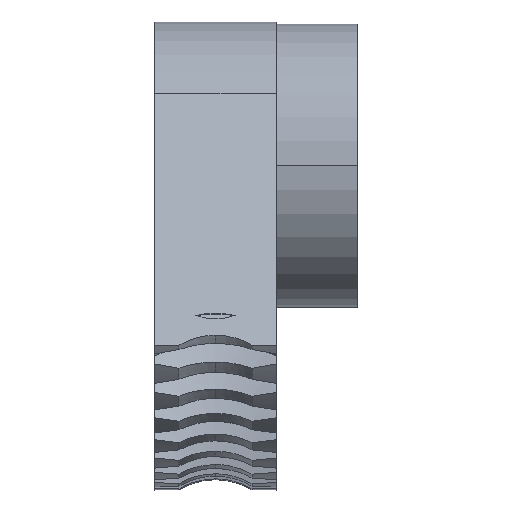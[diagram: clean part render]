
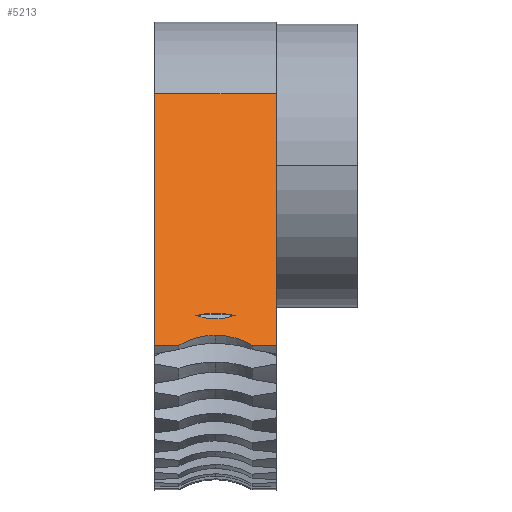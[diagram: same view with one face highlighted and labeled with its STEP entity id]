
A CAD part, top view. The second image highlights one B-rep face of the part: STEP entity #5213.
In plain terms, the highlighted planar face has unit normal (0, 0.5, 0.866).
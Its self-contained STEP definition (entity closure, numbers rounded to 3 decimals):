
#10 = VERTEX_POINT ( 'NONE', #908 ) ;
#47 = FACE_OUTER_BOUND ( 'NONE', #953, .T. ) ;
#121 = ORIENTED_EDGE ( 'NONE', *, *, #4924, .F. ) ;
#364 = CARTESIAN_POINT ( 'NONE',  ( 0., -8.867, 13.318 ) ) ;
#477 = CARTESIAN_POINT ( 'NONE',  ( 3.333, -7.562, 12.564 ) ) ;
#508 = CARTESIAN_POINT ( 'NONE',  ( 2.032, -7.403, 12.473 ) ) ;
#536 = DIRECTION ( 'NONE',  ( 1., 0., 0. ) ) ;
#538 = CARTESIAN_POINT ( 'NONE',  ( 3.968, -7.403, 12.473 ) ) ;
#567 =( BOUNDED_CURVE ( )  B_SPLINE_CURVE ( 3, ( #508, #6385, #4907, #4416 ),
 .UNSPECIFIED., .F., .F. ) 
 B_SPLINE_CURVE_WITH_KNOTS ( ( 4, 4 ),
 ( 2.929, 3.142 ),
 .UNSPECIFIED. ) 
 CURVE ( )  GEOMETRIC_REPRESENTATION_ITEM ( )  RATIONAL_B_SPLINE_CURVE ( ( 1., 0.996, 0.996, 1. ) ) 
 REPRESENTATION_ITEM ( '' )  );
#589 = CARTESIAN_POINT ( 'NONE',  ( 2.032, -7.403, 12.473 ) ) ;
#613 = CARTESIAN_POINT ( 'NONE',  ( 2.032, -7.403, 12.473 ) ) ;
#641 = EDGE_CURVE ( 'NONE', #10, #3674, #2515, .T. ) ;
#664 = CARTESIAN_POINT ( 'NONE',  ( -2.5, 3.55, 6.149 ) ) ;
#822 = EDGE_CURVE ( 'NONE', #2304, #3827, #962, .T. ) ;
#843 = CARTESIAN_POINT ( 'NONE',  ( 0., 3.55, 6.149 ) ) ;
#908 = CARTESIAN_POINT ( 'NONE',  ( 3., -7.3, 12.413 ) ) ;
#953 = EDGE_LOOP ( 'NONE', ( #4223, #3888, #6141, #6296, #1937, #121, #2165 ) ) ;
#962 = LINE ( 'NONE', #4445, #3598 ) ;
#1065 = VERTEX_POINT ( 'NONE', #843 ) ;
#1097 = CARTESIAN_POINT ( 'NONE',  ( 6., 3.55, 6.149 ) ) ;
#1152 = CARTESIAN_POINT ( 'NONE',  ( 4.244, -8.59, 13.158 ) ) ;
#1172 = DIRECTION ( 'NONE',  ( 0., 0.866, -0.5 ) ) ;
#1182 = CARTESIAN_POINT ( 'NONE',  ( 3.635, -8.435, 13.069 ) ) ;
#1222 = ORIENTED_EDGE ( 'NONE', *, *, #3624, .T. ) ;
#1400 = B_SPLINE_CURVE_WITH_KNOTS ( 'NONE', 3,
 ( #4911, #3641, #5512, #1182, #1567, #1152, #4021, #4603 ),
 .UNSPECIFIED., .F., .F.,
 ( 4, 2, 2, 4 ),
 ( 0.002, 0.002, 0.003, 0.004 ),
 .UNSPECIFIED. ) ;
#1440 = CARTESIAN_POINT ( 'NONE',  ( 3.657, -7.501, 12.529 ) ) ;
#1483 = EDGE_CURVE ( 'NONE', #3674, #2645, #3689, .T. ) ;
#1567 = CARTESIAN_POINT ( 'NONE',  ( 3.79, -8.467, 13.087 ) ) ;
#1580 = EDGE_CURVE ( 'NONE', #6288, #3353, #4809, .T. ) ;
#1626 = CARTESIAN_POINT ( 'NONE',  ( 6., 3.55, 6.149 ) ) ;
#1865 = B_SPLINE_CURVE_WITH_KNOTS ( 'NONE', 3,
 ( #3216, #4320, #3738, #5702, #2353, #6286, #6185, #3709 ),
 .UNSPECIFIED., .F., .F.,
 ( 4, 2, 2, 4 ),
 ( 0., 0.001, 0.001, 0.002 ),
 .UNSPECIFIED. ) ;
#1932 = CARTESIAN_POINT ( 'NONE',  ( 0., 3.55, 6.149 ) ) ;
#1937 = ORIENTED_EDGE ( 'NONE', *, *, #3429, .T. ) ;
#2054 = CARTESIAN_POINT ( 'NONE',  ( 3., -8.382, 13.038 ) ) ;
#2165 = ORIENTED_EDGE ( 'NONE', *, *, #3759, .F. ) ;
#2304 = VERTEX_POINT ( 'NONE', #364 ) ;
#2353 = CARTESIAN_POINT ( 'NONE',  ( 2.367, -8.435, 13.068 ) ) ;
#2429 = VECTOR ( 'NONE', #2452, 1000. ) ;
#2452 = DIRECTION ( 'NONE',  ( 0., 0.866, -0.5 ) ) ;
#2476 = FACE_BOUND ( 'NONE', #5685, .T. ) ;
#2515 =( BOUNDED_CURVE ( )  B_SPLINE_CURVE ( 3, ( #4720, #5581, #4055, #6091 ),
 .UNSPECIFIED., .F., .F. ) 
 B_SPLINE_CURVE_WITH_KNOTS ( ( 4, 4 ),
 ( 3.142, 3.354 ),
 .UNSPECIFIED. ) 
 CURVE ( )  GEOMETRIC_REPRESENTATION_ITEM ( )  RATIONAL_B_SPLINE_CURVE ( ( 1., 0.996, 0.996, 1. ) ) 
 REPRESENTATION_ITEM ( '' )  );
#2530 = AXIS2_PLACEMENT_3D ( 'NONE', #4960, #3475, #5418 ) ;
#2601 = VERTEX_POINT ( 'NONE', #1097 ) ;
#2645 = VERTEX_POINT ( 'NONE', #613 ) ;
#2772 = VECTOR ( 'NONE', #4349, 1000. ) ;
#3216 = CARTESIAN_POINT ( 'NONE',  ( 1.197, -8.867, 13.318 ) ) ;
#3229 = ORIENTED_EDGE ( 'NONE', *, *, #1483, .T. ) ;
#3353 = VERTEX_POINT ( 'NONE', #6346 ) ;
#3429 = EDGE_CURVE ( 'NONE', #3353, #2601, #3572, .T. ) ;
#3475 = DIRECTION ( 'NONE',  ( 0., -0.5, -0.866 ) ) ;
#3526 = CARTESIAN_POINT ( 'NONE',  ( 3.164, -7.579, 12.574 ) ) ;
#3572 = LINE ( 'NONE', #1626, #6122 ) ;
#3598 = VECTOR ( 'NONE', #536, 1000. ) ;
#3624 = EDGE_CURVE ( 'NONE', #2645, #10, #567, .T. ) ;
#3641 = CARTESIAN_POINT ( 'NONE',  ( 3.159, -8.382, 13.038 ) ) ;
#3674 = VERTEX_POINT ( 'NONE', #538 ) ;
#3689 = B_SPLINE_CURVE_WITH_KNOTS ( 'NONE', 3,
 ( #4838, #3897, #1440, #477, #3526, #5387, #4290, #5354, #5014, #589 ),
 .UNSPECIFIED., .F., .F.,
 ( 4, 2, 2, 2, 4 ),
 ( 0., 0.001, 0.001, 0.002, 0.002 ),
 .UNSPECIFIED. ) ;
#3709 = CARTESIAN_POINT ( 'NONE',  ( 3., -8.382, 13.038 ) ) ;
#3738 = CARTESIAN_POINT ( 'NONE',  ( 1.751, -8.591, 13.159 ) ) ;
#3759 = EDGE_CURVE ( 'NONE', #2304, #1065, #6354, .T. ) ;
#3827 = VERTEX_POINT ( 'NONE', #6018 ) ;
#3888 = ORIENTED_EDGE ( 'NONE', *, *, #5089, .T. ) ;
#3897 = CARTESIAN_POINT ( 'NONE',  ( 3.814, -7.457, 12.503 ) ) ;
#4021 = CARTESIAN_POINT ( 'NONE',  ( 4.536, -8.712, 13.229 ) ) ;
#4055 = CARTESIAN_POINT ( 'NONE',  ( 3.65, -7.334, 12.433 ) ) ;
#4223 = ORIENTED_EDGE ( 'NONE', *, *, #822, .T. ) ;
#4290 = CARTESIAN_POINT ( 'NONE',  ( 2.671, -7.563, 12.565 ) ) ;
#4320 = CARTESIAN_POINT ( 'NONE',  ( 1.465, -8.712, 13.228 ) ) ;
#4349 = DIRECTION ( 'NONE',  ( 1., 0., 0. ) ) ;
#4416 = CARTESIAN_POINT ( 'NONE',  ( 3., -7.3, 12.413 ) ) ;
#4445 = CARTESIAN_POINT ( 'NONE',  ( -2.5, -8.867, 13.318 ) ) ;
#4451 = VERTEX_POINT ( 'NONE', #2054 ) ;
#4603 = CARTESIAN_POINT ( 'NONE',  ( 4.803, -8.867, 13.318 ) ) ;
#4720 = CARTESIAN_POINT ( 'NONE',  ( 3., -7.3, 12.413 ) ) ;
#4809 = LINE ( 'NONE', #6287, #2772 ) ;
#4838 = CARTESIAN_POINT ( 'NONE',  ( 3.968, -7.403, 12.473 ) ) ;
#4897 = PLANE ( 'NONE',  #2530 ) ;
#4907 = CARTESIAN_POINT ( 'NONE',  ( 2.674, -7.3, 12.413 ) ) ;
#4911 = CARTESIAN_POINT ( 'NONE',  ( 3., -8.382, 13.038 ) ) ;
#4913 = EDGE_CURVE ( 'NONE', #4451, #6288, #1400, .T. ) ;
#4924 = EDGE_CURVE ( 'NONE', #1065, #2601, #5057, .T. ) ;
#4960 = CARTESIAN_POINT ( 'NONE',  ( -2.5, 3.55, 6.149 ) ) ;
#4966 = CARTESIAN_POINT ( 'NONE',  ( 4.803, -8.867, 13.318 ) ) ;
#5014 = CARTESIAN_POINT ( 'NONE',  ( 2.187, -7.457, 12.504 ) ) ;
#5057 = LINE ( 'NONE', #664, #6339 ) ;
#5089 = EDGE_CURVE ( 'NONE', #3827, #4451, #1865, .T. ) ;
#5213 = ADVANCED_FACE ( 'NONE', ( #2476, #47 ), #4897, .F. ) ;
#5354 = CARTESIAN_POINT ( 'NONE',  ( 2.347, -7.501, 12.529 ) ) ;
#5387 = CARTESIAN_POINT ( 'NONE',  ( 2.834, -7.579, 12.574 ) ) ;
#5418 = DIRECTION ( 'NONE',  ( 0., 0.866, -0.5 ) ) ;
#5512 = CARTESIAN_POINT ( 'NONE',  ( 3.32, -8.393, 13.044 ) ) ;
#5581 = CARTESIAN_POINT ( 'NONE',  ( 3.326, -7.3, 12.413 ) ) ;
#5594 = ORIENTED_EDGE ( 'NONE', *, *, #641, .T. ) ;
#5685 = EDGE_LOOP ( 'NONE', ( #1222, #5594, #3229 ) ) ;
#5702 = CARTESIAN_POINT ( 'NONE',  ( 2.21, -8.467, 13.087 ) ) ;
#6018 = CARTESIAN_POINT ( 'NONE',  ( 1.197, -8.867, 13.318 ) ) ;
#6087 = DIRECTION ( 'NONE',  ( 1., 0., 0. ) ) ;
#6091 = CARTESIAN_POINT ( 'NONE',  ( 3.968, -7.403, 12.473 ) ) ;
#6122 = VECTOR ( 'NONE', #1172, 1000. ) ;
#6141 = ORIENTED_EDGE ( 'NONE', *, *, #4913, .T. ) ;
#6185 = CARTESIAN_POINT ( 'NONE',  ( 2.841, -8.382, 13.038 ) ) ;
#6286 = CARTESIAN_POINT ( 'NONE',  ( 2.682, -8.393, 13.044 ) ) ;
#6287 = CARTESIAN_POINT ( 'NONE',  ( -2.5, -8.867, 13.318 ) ) ;
#6288 = VERTEX_POINT ( 'NONE', #4966 ) ;
#6296 = ORIENTED_EDGE ( 'NONE', *, *, #1580, .T. ) ;
#6339 = VECTOR ( 'NONE', #6087, 1000. ) ;
#6346 = CARTESIAN_POINT ( 'NONE',  ( 6., -8.867, 13.318 ) ) ;
#6354 = LINE ( 'NONE', #1932, #2429 ) ;
#6385 = CARTESIAN_POINT ( 'NONE',  ( 2.35, -7.334, 12.433 ) ) ;
